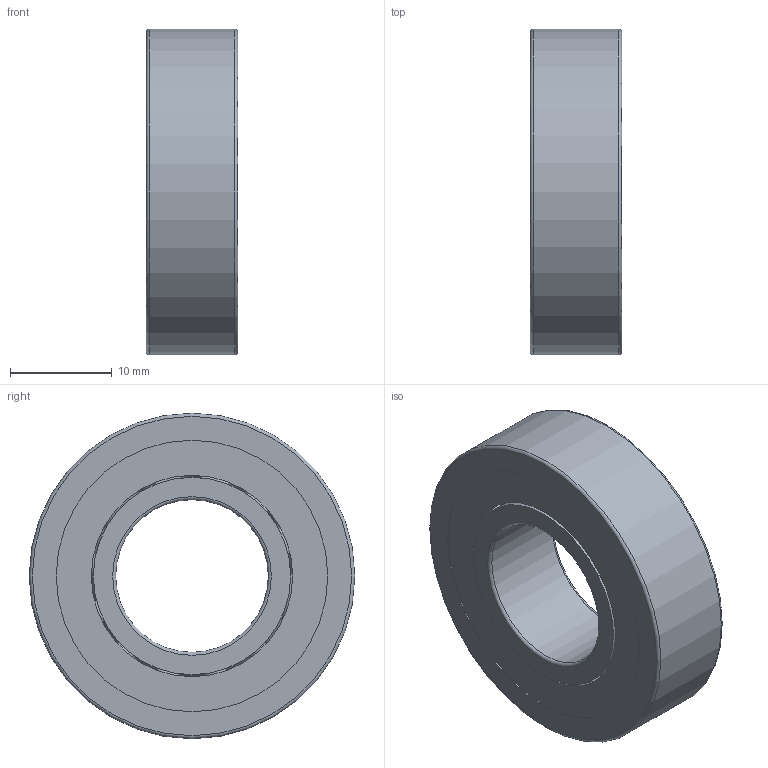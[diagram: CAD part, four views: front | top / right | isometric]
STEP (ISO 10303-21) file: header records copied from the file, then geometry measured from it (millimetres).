
FILE_DESCRIPTION(/* description */ (''),/* implementation_level */ '2;1');
FILE_NAME(/* name */ 'KH_6002_TA.step',/* time_stamp */ '2013-03-07T07:04:03+01:00',/* author */ ('Marian'),/* organization */ ('GMN'),/* preprocessor_version */ 'ST-DEVELOPER v11',/* originating_system */ 'SIEMENS UGS NX 6.0',/* authorisation */ '');
FILE_SCHEMA (('CONFIG_CONTROL_DESIGN'));
Length unit declared in the file: millimetre
Products named in the file (1): KH_6002_TA
Bounding box: 9 x 32 x 32 mm (x, y, z)
Volume: 4492.6 mm3; surface area: 6235.8 mm2
Topology: 18 solids, 18 shells, 58 faces, 134 edges, 86 vertices
Faces by surface type: cylinder 26, sphere 13, plane 12, torus 6, cone 1
Full cylindrical faces by diameter (mm): 4.169 x13, 15 x1, 19.4 x1, 19.8 x1, 20.2 x1, 20.6 x1, 22.549 x1, 24.898 x1, 25.298 x1, 26.7 x2, 28 x2, 32 x1
Entity records: 2744 total; most frequent: CARTESIAN_POINT 1670, DIRECTION 182, FACE_BOUND 129, EDGE_LOOP 116, ORIENTED_EDGE 116, AXIS2_PLACEMENT_3D 91, VERTEX_POINT 71, ADVANCED_FACE 58
